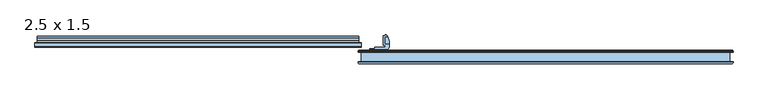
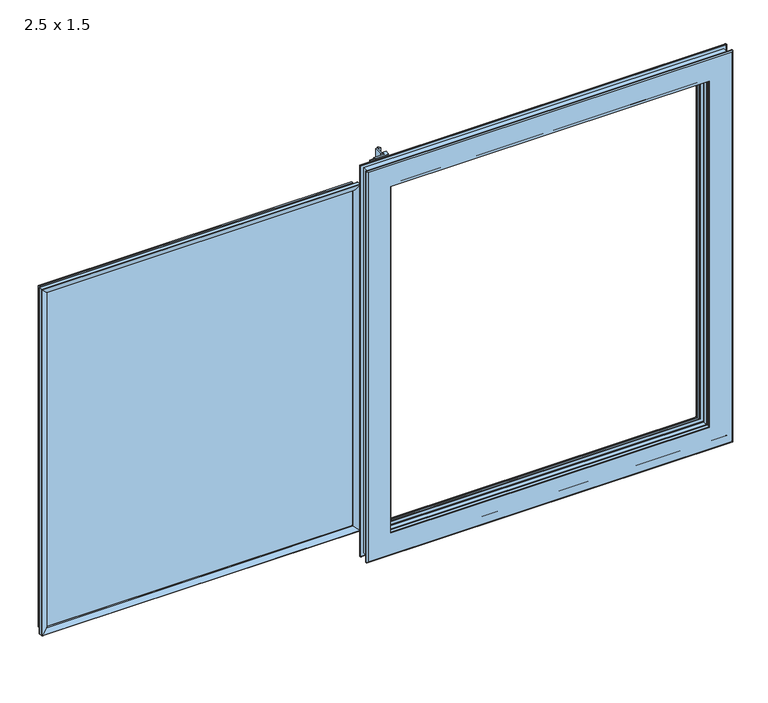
"""IFC4 building model written with IfcOpenShell, lengths in millimetres: window geometry, Windows_Opening-Slide_Strugal_S110P2_One-Leaf-Fixed-Leaf_INT (2) : 2.5 x 1.5."""

from ifc_helpers import new_model, si_unit, frame, origin, place, context, project, spatial, polyline, circle_curve, ellipse_curve, outline, extrude, source, transform, mapped, element, save
from ifc_brep_helpers import plane_surface, cylinder_surface, revolved_surface, advanced_brep


def window_2_5_x_1_5_7a9b2e37(model_context):
    return source(origin(), model_context, "Body", "SolidModel", [
        advanced_brep(
        [(-45.5, -66.5, 1459.0), (-45.5, -66.5, 41.0), (-41.5, -70.5, 45.0), (-41.5, -70.5, 1455.0), (1205.0, -70.5, 45.0), (1205.0, -70.5, 1455.0), (36.0, -70.5, 122.5), (36.0, -70.5, 1377.5), (1127.5, -70.5, 1377.5), (1127.5, -70.5, 122.5), (1209.0, -66.5, 41.0), (-45.5, -64.7086962, 1459.0), (-45.5, -64.7086962, 41.0), (1209.0, -64.7086962, 41.0), (-44.4913038, -63.7, 1457.9913038), (-44.4913038, -63.7, 42.0086962), (1207.9913038, -63.7, 42.0086962), (1207.9913038, -63.7, 1457.9913038), (-34.9, -63.7, 1448.4), (-34.9, -63.7, 51.6), (1198.4, -63.7, 51.6), (1198.4, -63.7, 1448.4), (-34.9, -32.3, 1448.4), (-34.9, -32.3, 51.6), (1198.4, -32.3, 51.6), (-44.5467393, -32.3, 1458.0467393), (-44.5467393, -32.3, 41.9532607), (1208.0467393, -32.3, 41.9532607), (1208.0467393, -32.3, 1458.0467393), (1198.4, -32.3, 1448.4), (-45.5, -31.3467393, 1459.0), (-45.5, -31.3467393, 41.0), (1209.0, -31.3467393, 41.0), (-45.5, -29.5, 1459.0), (-45.5, -29.5, 41.0), (1209.0, -29.5, 41.0), (-41.5, -25.5, 1455.0), (-41.5, -25.5, 45.0), (1205.0, -25.5, 45.0), (1205.0, -25.5, 1455.0), (42.1435933, -25.5, 1371.3564067), (42.1435933, -25.5, 128.6435933), (1121.3564067, -25.5, 128.6435933), (1121.3564067, -25.5, 1371.3564067), (56.5170852, -29.6438688, 1356.9829148), (56.5170852, -29.6438688, 143.0170852), (1106.9829148, -29.6438688, 143.0170852), (56.9999998, -30.5180265, 1356.5000002), (56.9999998, -30.5180265, 143.4999998), (1106.5000002, -30.5180265, 143.4999998), (56.9999998, -33.0, 1356.5), (56.9999998, -33.0, 143.5), (1106.5, -33.0, 143.4999998), (56.0, -34.0, 1357.5), (56.0, -34.0, 142.5), (1107.5, -34.0, 142.5), (50.5, -34.0, 1363.0), (50.5, -34.0, 137.0), (1113.0, -34.0, 137.0), (1113.0, -34.0, 1363.0), (1107.5, -34.0, 1357.5), (49.5, -33.0, 1364.0), (49.5, -33.0, 136.0), (1114.0, -33.0, 136.0), (49.5, -28.0841592, 1364.0), (49.5, -28.0841592, 136.0), (1114.0, -28.0841592, 136.0), (42.1435933, -27.0, 1371.3564067), (42.1435933, -27.0, 128.6435933), (1121.3564067, -27.0, 128.6435933), (31.0, -27.0, 1382.5), (31.0, -27.0, 117.5), (1132.5, -27.0, 117.5), (1132.5, -27.0, 1382.5), (1121.3564067, -27.0, 1371.3564067), (31.0, -37.0, 1382.5), (31.0, -37.0, 117.5), (1132.5, -37.0, 117.5), (1132.5, -37.0, 1382.5), (35.003386, -37.0, 1378.496614), (35.003386, -37.0, 121.503386), (1128.496614, -37.0, 121.503386), (1128.496614, -37.0, 1378.496614), (36.0, -37.996614, 1377.5), (36.0, -37.996614, 122.5), (1127.5, -37.996614, 122.5), (36.0, -53.0, 1377.5), (36.0, -53.0, 122.5), (1127.5, -53.0, 122.5), (34.0, -53.0, 1379.5), (34.0, -53.0, 120.5), (1129.5, -53.0, 120.5), (1129.5, -53.0, 1379.5), (1127.5, -53.0, 1377.5), (34.0, -51.0, 1379.5), (34.0, -51.0, 120.5), (1129.5, -51.0, 120.5), (31.0, -51.0, 1382.5), (31.0, -51.0, 117.5), (1132.5, -51.0, 117.5), (1132.5, -51.0, 1382.5), (1129.5, -51.0, 1379.5), (31.0, -69.0, 1382.5), (31.0, -69.0, 117.5), (1132.5, -69.0, 117.5), (1132.5, -69.0, 1382.5), (34.0, -69.0, 1379.5), (34.0, -69.0, 120.5), (1129.5, -69.0, 120.5), (1129.5, -69.0, 1379.5), (34.0, -67.0, 1379.5), (34.0, -67.0, 120.5), (1129.5, -67.0, 120.5), (36.0, -67.5091854, 1377.5), (36.0, -67.5091854, 122.5), (1127.5, -67.5091854, 122.5), (1209.0, -66.5, 1459.0), (1209.0, -64.7086962, 1459.0), (1209.0, -31.3467393, 1459.0), (1209.0, -29.5, 1459.0), (1106.9829148, -29.6438688, 1356.9829148), (1106.5000002, -30.5180265, 1356.5000002), (1106.5000002, -33.0, 1356.5), (1114.0, -33.0, 1364.0), (1114.0, -28.0841592, 1364.0), (1127.5, -37.996614, 1377.5), (1129.5, -67.0, 1379.5), (1127.5, -67.5091854, 1377.5)],
        [
            (0, 1),
            (1, 2, ellipse_curve(frame((-41.5, -66.5, 45.0), z_axis=(-0.7071067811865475, 0.0, 0.7071067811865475), x_axis=(0.7071067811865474, 0.0, 0.7071067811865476)), 5.6568542, 4.0)),
            (2, 3),
            (3, 0, ellipse_curve(frame((-41.5, -66.5, 1455.0), z_axis=(-0.7071067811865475, 0.0, -0.7071067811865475), x_axis=(-0.7071067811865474, 0.0, 0.7071067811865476)), 5.6568542, 4.0)),
            (2, 4),
            (4, 5),
            (5, 3),
            (6, 7),
            (7, 8),
            (8, 9),
            (9, 6),
            (1, 10),
            (10, 4, ellipse_curve(frame((1205.0, -66.5, 45.0), z_axis=(-0.7071067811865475, 0.0, -0.7071067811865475), x_axis=(-0.7071067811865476, 0.0, 0.7071067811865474)), 5.6568542, 4.0)),
            (11, 12),
            (12, 1),
            (0, 11),
            (12, 13),
            (13, 10),
            (14, 15),
            (15, 12, ellipse_curve(frame((-44.4913038, -64.7086962, 42.0086962), z_axis=(-0.7071067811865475, 0.0, 0.7071067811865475), x_axis=(0.7071067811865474, 0.0, 0.7071067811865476)), 1.4265118, 1.0086962)),
            (11, 14, ellipse_curve(frame((-44.4913038, -64.7086962, 1457.9913038), z_axis=(-0.7071067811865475, 0.0, -0.7071067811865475), x_axis=(-0.7071067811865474, 0.0, 0.7071067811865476)), 1.4265118, 1.0086962)),
            (15, 16),
            (16, 13, ellipse_curve(frame((1207.9913038, -64.7086962, 42.0086962), z_axis=(-0.7071067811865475, 0.0, -0.7071067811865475), x_axis=(-0.7071067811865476, 0.0, 0.7071067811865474)), 1.4265118, 1.0086962)),
            (14, 17),
            (17, 16),
            (18, 19),
            (19, 20),
            (20, 21),
            (21, 18),
            (22, 23),
            (23, 19),
            (18, 22),
            (23, 24),
            (24, 20),
            (25, 26),
            (26, 27),
            (27, 28),
            (28, 25),
            (22, 29),
            (29, 24),
            (30, 31),
            (31, 26, ellipse_curve(frame((-44.5467393, -31.3467393, 41.9532607), z_axis=(-0.7071067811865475, 0.0, 0.7071067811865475), x_axis=(0.7071067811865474, 0.0, 0.7071067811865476)), 1.3481142, 0.9532607)),
            (25, 30, ellipse_curve(frame((-44.5467393, -31.3467393, 1458.0467393), z_axis=(-0.7071067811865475, 0.0, -0.7071067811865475), x_axis=(-0.7071067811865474, 0.0, 0.7071067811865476)), 1.3481142, 0.9532607)),
            (31, 32),
            (32, 27, ellipse_curve(frame((1208.0467393, -31.3467393, 41.9532607), z_axis=(-0.7071067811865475, 0.0, -0.7071067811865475), x_axis=(-0.7071067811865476, 0.0, 0.7071067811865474)), 1.3481142, 0.9532607)),
            (33, 34),
            (34, 31),
            (30, 33),
            (34, 35),
            (35, 32),
            (36, 37),
            (37, 34, ellipse_curve(frame((-41.5, -29.5, 45.0), z_axis=(-0.7071067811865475, 0.0, 0.7071067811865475), x_axis=(0.7071067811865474, 0.0, 0.7071067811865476)), 5.6568542, 4.0)),
            (33, 36, ellipse_curve(frame((-41.5, -29.5, 1455.0), z_axis=(-0.7071067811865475, 0.0, -0.7071067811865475), x_axis=(-0.7071067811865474, 0.0, 0.7071067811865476)), 5.6568542, 4.0)),
            (37, 38),
            (38, 35, ellipse_curve(frame((1205.0, -29.5, 45.0), z_axis=(-0.7071067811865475, 0.0, -0.7071067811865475), x_axis=(-0.7071067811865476, 0.0, 0.7071067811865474)), 5.6568542, 4.0)),
            (36, 39),
            (39, 38),
            (40, 41),
            (41, 42),
            (42, 43),
            (43, 40),
            (44, 45),
            (45, 41, ellipse_curve(frame((42.1435933, -52.5, 128.6435933), z_axis=(-0.7071067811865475, 0.0, 0.7071067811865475), x_axis=(0.7071067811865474, 0.0, 0.7071067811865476)), 38.1837662, 27.0)),
            (40, 44, ellipse_curve(frame((42.1435933, -52.5, 1371.3564067), z_axis=(-0.7071067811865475, 0.0, -0.7071067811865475), x_axis=(-0.7071067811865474, 0.0, 0.7071067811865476)), 38.1837662, 27.0)),
            (45, 46),
            (46, 42, ellipse_curve(frame((1121.3564067, -52.5, 128.6435933), z_axis=(-0.7071067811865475, 0.0, -0.7071067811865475), x_axis=(-0.7071067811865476, 0.0, 0.7071067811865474)), 38.1837662, 27.0)),
            (47, 48),
            (48, 45, ellipse_curve(frame((55.9673553, -30.5180265, 142.4673553), z_axis=(-0.7071067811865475, 0.0, 0.7071067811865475), x_axis=(0.7071067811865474, 0.0, 0.7071067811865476)), 1.4603799, 1.0326445)),
            (44, 47, ellipse_curve(frame((55.9673553, -30.5180265, 1357.5326447), z_axis=(-0.7071067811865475, 0.0, -0.7071067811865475), x_axis=(-0.7071067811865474, 0.0, 0.7071067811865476)), 1.4603799, 1.0326445)),
            (48, 49),
            (49, 46, ellipse_curve(frame((1107.5326447, -30.5180265, 142.4673553), z_axis=(-0.7071067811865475, 0.0, -0.7071067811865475), x_axis=(-0.7071067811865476, 0.0, 0.7071067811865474)), 1.4603799, 1.0326445)),
            (50, 51),
            (51, 48),
            (47, 50),
            (51, 52),
            (52, 49),
            (53, 54),
            (54, 51, ellipse_curve(frame((56.0, -33.0, 142.5), z_axis=(-0.7071067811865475, 0.0, 0.7071067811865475), x_axis=(0.7071067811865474, 0.0, 0.7071067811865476)), 1.4142136, 1.0)),
            (50, 53, ellipse_curve(frame((56.0, -33.0, 1357.5), z_axis=(-0.7071067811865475, 0.0, -0.7071067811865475), x_axis=(-0.7071067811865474, 0.0, 0.7071067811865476)), 1.4142136, 1.0)),
            (54, 55),
            (55, 52, ellipse_curve(frame((1107.5, -33.0, 142.5), z_axis=(-0.7071067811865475, 0.0, -0.7071067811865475), x_axis=(-0.7071067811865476, 0.0, 0.7071067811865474)), 1.4142136, 1.0)),
            (56, 57),
            (57, 58),
            (58, 59),
            (59, 56),
            (53, 60),
            (60, 55),
            (61, 62),
            (62, 57, ellipse_curve(frame((50.5, -33.0, 137.0), z_axis=(-0.7071067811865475, 0.0, 0.7071067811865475), x_axis=(0.7071067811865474, 0.0, 0.7071067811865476)), 1.4142136, 1.0)),
            (56, 61, ellipse_curve(frame((50.5, -33.0, 1363.0), z_axis=(-0.7071067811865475, 0.0, -0.7071067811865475), x_axis=(-0.7071067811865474, 0.0, 0.7071067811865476)), 1.4142136, 1.0)),
            (62, 63),
            (63, 58, ellipse_curve(frame((1113.0, -33.0, 137.0), z_axis=(-0.7071067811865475, 0.0, -0.7071067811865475), x_axis=(-0.7071067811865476, 0.0, 0.7071067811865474)), 1.4142136, 1.0)),
            (64, 65),
            (65, 62),
            (61, 64),
            (65, 66),
            (66, 63),
            (67, 68),
            (68, 65, ellipse_curve(frame((42.1435933, -52.5, 128.6435933), z_axis=(0.7071067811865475, 0.0, -0.7071067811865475), x_axis=(-0.7071067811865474, 0.0, -0.7071067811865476)), 36.0624458, 25.5)),
            (64, 67, ellipse_curve(frame((42.1435933, -52.5, 1371.3564067), z_axis=(0.7071067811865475, 0.0, 0.7071067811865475), x_axis=(0.7071067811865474, 0.0, -0.7071067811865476)), 36.0624458, 25.5)),
            (68, 69),
            (69, 66, ellipse_curve(frame((1121.3564067, -52.5, 128.6435933), z_axis=(0.7071067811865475, 0.0, 0.7071067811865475), x_axis=(0.7071067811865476, 0.0, -0.7071067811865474)), 36.0624458, 25.5)),
            (70, 71),
            (71, 72),
            (72, 73),
            (73, 70),
            (67, 74),
            (74, 69),
            (75, 76),
            (76, 71),
            (70, 75),
            (76, 77),
            (77, 72),
            (75, 78),
            (78, 77),
            (79, 80),
            (80, 81),
            (81, 82),
            (82, 79),
            (83, 84),
            (84, 80, ellipse_curve(frame((35.003386, -37.996614, 121.503386), z_axis=(-0.7071067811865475, 0.0, 0.7071067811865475), x_axis=(0.7071067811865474, 0.0, 0.7071067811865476)), 1.4094251, 0.996614)),
            (79, 83, ellipse_curve(frame((35.003386, -37.996614, 1378.496614), z_axis=(-0.7071067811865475, 0.0, -0.7071067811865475), x_axis=(-0.7071067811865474, 0.0, 0.7071067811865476)), 1.4094251, 0.996614)),
            (84, 85),
            (85, 81, ellipse_curve(frame((1128.496614, -37.996614, 121.503386), z_axis=(-0.7071067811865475, 0.0, -0.7071067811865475), x_axis=(-0.7071067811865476, 0.0, 0.7071067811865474)), 1.4094251, 0.996614)),
            (86, 87),
            (87, 84),
            (83, 86),
            (87, 88),
            (88, 85),
            (89, 90),
            (90, 91),
            (91, 92),
            (92, 89),
            (86, 93),
            (93, 88),
            (94, 95),
            (95, 90),
            (89, 94),
            (95, 96),
            (96, 91),
            (97, 98),
            (98, 99),
            (99, 100),
            (100, 97),
            (94, 101),
            (101, 96),
            (102, 103),
            (103, 98),
            (97, 102),
            (103, 104),
            (104, 99),
            (102, 105),
            (105, 104),
            (106, 107),
            (107, 108),
            (108, 109),
            (109, 106),
            (110, 111),
            (111, 107),
            (106, 110),
            (111, 112),
            (112, 108),
            (113, 114),
            (114, 111),
            (110, 113),
            (114, 115),
            (115, 112),
            (6, 114),
            (113, 7),
            (9, 115),
            (10, 116),
            (116, 5, ellipse_curve(frame((1205.0, -66.5, 1455.0), z_axis=(0.7071067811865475, 0.0, -0.7071067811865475), x_axis=(-0.7071067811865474, 0.0, -0.7071067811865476)), 5.6568542, 4.0)),
            (13, 117),
            (117, 116),
            (17, 117, ellipse_curve(frame((1207.9913038, -64.7086962, 1457.9913038), z_axis=(0.7071067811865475, 0.0, -0.7071067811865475), x_axis=(-0.7071067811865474, 0.0, -0.7071067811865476)), 1.4265118, 1.0086962)),
            (29, 21),
            (32, 118),
            (118, 28, ellipse_curve(frame((1208.0467393, -31.3467393, 1458.0467393), z_axis=(0.7071067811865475, 0.0, -0.7071067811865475), x_axis=(-0.7071067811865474, 0.0, -0.7071067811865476)), 1.3481142, 0.9532607)),
            (35, 119),
            (119, 118),
            (39, 119, ellipse_curve(frame((1205.0, -29.5, 1455.0), z_axis=(0.7071067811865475, 0.0, -0.7071067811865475), x_axis=(-0.7071067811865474, 0.0, -0.7071067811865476)), 5.6568542, 4.0)),
            (46, 120),
            (120, 43, ellipse_curve(frame((1121.3564067, -52.5, 1371.3564067), z_axis=(0.7071067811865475, 0.0, -0.7071067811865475), x_axis=(-0.7071067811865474, 0.0, -0.7071067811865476)), 38.1837662, 27.0)),
            (49, 121),
            (121, 120, ellipse_curve(frame((1107.5326447, -30.5180265, 1357.5326447), z_axis=(0.7071067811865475, 0.0, -0.7071067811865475), x_axis=(-0.7071067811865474, 0.0, -0.7071067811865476)), 1.4603799, 1.0326445)),
            (52, 122),
            (122, 121),
            (60, 122, ellipse_curve(frame((1107.5, -33.0, 1357.5), z_axis=(0.7071067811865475, 0.0, -0.7071067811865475), x_axis=(-0.7071067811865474, 0.0, -0.7071067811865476)), 1.4142136, 1.0)),
            (63, 123),
            (123, 59, ellipse_curve(frame((1113.0, -33.0, 1363.0), z_axis=(0.7071067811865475, 0.0, -0.7071067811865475), x_axis=(-0.7071067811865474, 0.0, -0.7071067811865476)), 1.4142136, 1.0)),
            (66, 124),
            (124, 123),
            (74, 124, ellipse_curve(frame((1121.3564067, -52.5, 1371.3564067), z_axis=(-0.7071067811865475, 0.0, 0.7071067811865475), x_axis=(0.7071067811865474, 0.0, 0.7071067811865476)), 36.0624458, 25.5)),
            (78, 73),
            (85, 125),
            (125, 82, ellipse_curve(frame((1128.496614, -37.996614, 1378.496614), z_axis=(0.7071067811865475, 0.0, -0.7071067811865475), x_axis=(-0.7071067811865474, 0.0, -0.7071067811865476)), 1.4094251, 0.996614)),
            (93, 125),
            (101, 92),
            (105, 100),
            (112, 126),
            (126, 109),
            (115, 127),
            (127, 126),
            (8, 127),
            (116, 0),
            (117, 11),
            (118, 30),
            (119, 33),
            (120, 44),
            (121, 47),
            (122, 50),
            (123, 61),
            (124, 64),
            (125, 83),
            (126, 110),
            (127, 113),
        ],
        [
            cylinder_surface(frame((-41.5, -66.5, 1459.0), z_axis=(0.0, 0.0, 1.0), x_axis=(1.0, 0.0, 0.0)), 4.0),
            plane_surface(frame((1127.5, -70.5, 1377.5), z_axis=(0.0, -1.0, 0.0), x_axis=(-1.0, 0.0, 0.0))),
            cylinder_surface(frame((-45.5, -66.5, 45.0), z_axis=(-1.0, 0.0, 0.0), x_axis=(0.0, 0.0, 1.0)), 4.0),
            plane_surface(frame((-45.5, -66.5, 1459.0), z_axis=(-1.0, 0.0, 0.0), x_axis=(0.0, 0.0, -1.0))),
            plane_surface(frame((-45.5, -66.5, 41.0), z_axis=(0.0, 0.0, -1.0), x_axis=(1.0, 0.0, 0.0))),
            cylinder_surface(frame((-44.4913038, -64.7086962, 1459.0), z_axis=(0.0, 0.0, 1.0), x_axis=(1.0, 0.0, 0.0)), 1.0086962),
            cylinder_surface(frame((-45.5, -64.7086962, 42.0086962), z_axis=(-1.0, 0.0, 0.0), x_axis=(0.0, 0.0, 1.0)), 1.0086962),
            plane_surface(frame((1207.9913038, -63.7, 1457.9913038), z_axis=(0.0, 1.0, 0.0), x_axis=(-1.0, 0.0, 0.0))),
            plane_surface(frame((-34.9, -63.7, 1448.4), z_axis=(-1.0, 0.0, 0.0), x_axis=(0.0, 0.0, -1.0))),
            plane_surface(frame((-34.9, -63.7, 51.6), z_axis=(0.0, 0.0, -1.0), x_axis=(1.0, 0.0, 0.0))),
            plane_surface(frame((1198.4, -32.3, 1448.4), z_axis=(0.0, -1.0, 0.0), x_axis=(-1.0, 0.0, 0.0))),
            cylinder_surface(frame((-44.5467393, -31.3467393, 1459.0), z_axis=(0.0, 0.0, 1.0), x_axis=(1.0, 0.0, 0.0)), 0.9532607),
            cylinder_surface(frame((-45.5, -31.3467393, 41.9532607), z_axis=(-1.0, 0.0, 0.0), x_axis=(0.0, 0.0, 1.0)), 0.9532607),
            plane_surface(frame((-45.5, -31.3467393, 1459.0), z_axis=(-1.0, 0.0, 0.0), x_axis=(0.0, 0.0, -1.0))),
            plane_surface(frame((-45.5, -31.3467393, 41.0), z_axis=(0.0, 0.0, -1.0), x_axis=(1.0, 0.0, 0.0))),
            cylinder_surface(frame((-41.5, -29.5, 1459.0), z_axis=(0.0, 0.0, 1.0), x_axis=(1.0, 0.0, 0.0)), 4.0),
            cylinder_surface(frame((-45.5, -29.5, 45.0), z_axis=(-1.0, 0.0, 0.0), x_axis=(0.0, 0.0, 1.0)), 4.0),
            plane_surface(frame((1205.0, -25.5, 1455.0), z_axis=(0.0, 1.0, 0.0), x_axis=(-1.0, 0.0, 0.0))),
            cylinder_surface(frame((42.1435933, -52.5, 1459.0), z_axis=(0.0, 0.0, 1.0), x_axis=(1.0, 0.0, 0.0)), 27.0),
            cylinder_surface(frame((-45.5, -52.5, 128.6435933), z_axis=(-1.0, 0.0, 0.0), x_axis=(0.0, 0.0, 1.0)), 27.0),
            cylinder_surface(frame((55.9673553, -30.5180265, 1459.0), z_axis=(0.0, 0.0, 1.0), x_axis=(1.0, 0.0, 0.0)), 1.0326445),
            cylinder_surface(frame((-45.5, -30.5180265, 142.4673553), z_axis=(-1.0, 0.0, 0.0), x_axis=(0.0, 0.0, 1.0)), 1.0326445),
            plane_surface(frame((56.9999998, -30.5180265, 1356.5000002), z_axis=(1.0, 0.0, 0.0), x_axis=(0.0, 0.0, -1.0))),
            plane_surface(frame((56.9999998, -30.5180265, 143.4999998), z_axis=(0.0, 0.0, 1.0), x_axis=(1.0, 0.0, 0.0))),
            cylinder_surface(frame((56.0, -33.0, 1459.0), z_axis=(0.0, 0.0, 1.0), x_axis=(1.0, 0.0, 0.0)), 1.0),
            cylinder_surface(frame((-45.5, -33.0, 142.5), z_axis=(-1.0, 0.0, 0.0), x_axis=(0.0, 0.0, 1.0)), 1.0),
            plane_surface(frame((1107.5, -34.0, 1357.5), z_axis=(0.0, -1.0, 0.0), x_axis=(-1.0, 0.0, 0.0))),
            cylinder_surface(frame((50.5, -33.0, 1459.0), z_axis=(0.0, 0.0, 1.0), x_axis=(1.0, 0.0, 0.0)), 1.0),
            cylinder_surface(frame((-45.5, -33.0, 137.0), z_axis=(-1.0, 0.0, 0.0), x_axis=(0.0, 0.0, 1.0)), 1.0),
            plane_surface(frame((49.5, -33.0, 1364.0), z_axis=(-1.0, 0.0, 0.0), x_axis=(0.0, 0.0, -1.0))),
            plane_surface(frame((49.5, -33.0, 136.0), z_axis=(0.0, 0.0, -1.0), x_axis=(1.0, 0.0, 0.0))),
            revolved_surface(polyline([(67.64359329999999, -52.5, 103.14359332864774), (67.64359329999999, -52.5, 1396.8564066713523)]), (42.1435933, -52.5, 1459.0), (0.0, 0.0, -1.0)),
            revolved_surface(polyline([(1146.8564066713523, -52.5, 154.1435933), (16.64359332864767, -52.5, 154.1435933)]), (-45.5, -52.5, 128.6435933), (1.0, 0.0, 0.0)),
            plane_surface(frame((1121.3564067, -27.0, 1371.3564067), z_axis=(0.0, -1.0, 0.0), x_axis=(-1.0, 0.0, 0.0))),
            plane_surface(frame((31.0, -27.0, 1382.5), z_axis=(1.0, 0.0, 0.0), x_axis=(0.0, 0.0, -1.0))),
            plane_surface(frame((31.0, -27.0, 117.5), z_axis=(0.0, 0.0, 1.0), x_axis=(1.0, 0.0, 0.0))),
            plane_surface(frame((1132.5, -37.0, 1382.5), z_axis=(0.0, 1.0, 0.0), x_axis=(-1.0, 0.0, 0.0))),
            cylinder_surface(frame((35.003386, -37.996614, 1459.0), z_axis=(0.0, 0.0, 1.0), x_axis=(1.0, 0.0, 0.0)), 0.996614),
            cylinder_surface(frame((-45.5, -37.996614, 121.503386), z_axis=(-1.0, 0.0, 0.0), x_axis=(0.0, 0.0, 1.0)), 0.996614),
            plane_surface(frame((36.0, -37.996614, 1377.5), z_axis=(1.0, 0.0, 0.0), x_axis=(0.0, 0.0, -1.0))),
            plane_surface(frame((36.0, -37.996614, 122.5), z_axis=(0.0, 0.0, 1.0), x_axis=(1.0, 0.0, 0.0))),
            plane_surface(frame((1127.5, -53.0, 1377.5), z_axis=(0.0, -1.0, 0.0), x_axis=(-1.0, 0.0, 0.0))),
            plane_surface(frame((34.0, -53.0, 1379.5), z_axis=(-1.0, 0.0, 0.0), x_axis=(0.0, 0.0, -1.0))),
            plane_surface(frame((34.0, -53.0, 120.5), z_axis=(0.0, 0.0, -1.0), x_axis=(1.0, 0.0, 0.0))),
            plane_surface(frame((1129.5, -51.0, 1379.5), z_axis=(0.0, -1.0, 0.0), x_axis=(-1.0, 0.0, 0.0))),
            plane_surface(frame((31.0, -51.0, 1382.5), z_axis=(1.0, 0.0, 0.0), x_axis=(0.0, 0.0, -1.0))),
            plane_surface(frame((31.0, -51.0, 117.5), z_axis=(0.0, 0.0, 1.0), x_axis=(1.0, 0.0, 0.0))),
            plane_surface(frame((1132.5, -69.0, 1382.5), z_axis=(0.0, 1.0, 0.0), x_axis=(-1.0, 0.0, 0.0))),
            plane_surface(frame((34.0, -69.0, 1379.5), z_axis=(-1.0, 0.0, 0.0), x_axis=(0.0, 0.0, -1.0))),
            plane_surface(frame((34.0, -69.0, 120.5), z_axis=(0.0, 0.0, -1.0), x_axis=(1.0, 0.0, 0.0))),
            plane_surface(frame((34.0, -67.0, 1379.5), z_axis=(0.24672227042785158, 0.9690862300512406, 0.0), x_axis=(0.0, 0.0, -1.0))),
            plane_surface(frame((34.0, -67.0, 120.5), z_axis=(0.0, 0.9690862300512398, 0.24672227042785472), x_axis=(1.0, 0.0, 0.0))),
            plane_surface(frame((36.0, -67.5091854, 1377.5), z_axis=(1.0, 0.0, 0.0), x_axis=(0.0, 0.0, -1.0))),
            plane_surface(frame((36.0, -67.5091854, 122.5), z_axis=(0.0, 0.0, 1.0), x_axis=(1.0, 0.0, 0.0))),
            cylinder_surface(frame((1205.0, -66.5, 41.0), z_axis=(0.0, 0.0, -1.0), x_axis=(-1.0, 0.0, 0.0)), 4.0),
            plane_surface(frame((1209.0, -66.5, 41.0), z_axis=(1.0, 0.0, 0.0), x_axis=(0.0, 0.0, 1.0))),
            cylinder_surface(frame((1207.9913038, -64.7086962, 41.0), z_axis=(0.0, 0.0, -1.0), x_axis=(-1.0, 0.0, 0.0)), 1.0086962),
            plane_surface(frame((1198.4, -63.7, 51.6), z_axis=(1.0, 0.0, 0.0), x_axis=(0.0, 0.0, 1.0))),
            cylinder_surface(frame((1208.0467393, -31.3467393, 41.0), z_axis=(0.0, 0.0, -1.0), x_axis=(-1.0, 0.0, 0.0)), 0.9532607),
            plane_surface(frame((1209.0, -31.3467393, 41.0), z_axis=(1.0, 0.0, 0.0), x_axis=(0.0, 0.0, 1.0))),
            cylinder_surface(frame((1205.0, -29.5, 41.0), z_axis=(0.0, 0.0, -1.0), x_axis=(-1.0, 0.0, 0.0)), 4.0),
            cylinder_surface(frame((1121.3564067, -52.5, 41.0), z_axis=(0.0, 0.0, -1.0), x_axis=(-1.0, 0.0, 0.0)), 27.0),
            cylinder_surface(frame((1107.5326447, -30.5180265, 41.0), z_axis=(0.0, 0.0, -1.0), x_axis=(-1.0, 0.0, 0.0)), 1.0326445),
            plane_surface(frame((1106.5000002, -30.5180265, 143.4999998), z_axis=(-1.0, 0.0, 0.0), x_axis=(0.0, 0.0, 1.0))),
            cylinder_surface(frame((1107.5, -33.0, 41.0), z_axis=(0.0, 0.0, -1.0), x_axis=(-1.0, 0.0, 0.0)), 1.0),
            cylinder_surface(frame((1113.0, -33.0, 41.0), z_axis=(0.0, 0.0, -1.0), x_axis=(-1.0, 0.0, 0.0)), 1.0),
            plane_surface(frame((1114.0, -33.0, 136.0), z_axis=(1.0, 0.0, 0.0), x_axis=(0.0, 0.0, 1.0))),
            revolved_surface(polyline([(1095.8564067, -52.5, 1396.8564066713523), (1095.8564067, -52.5, 103.14359332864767)]), (1121.3564067, -52.5, 41.0), (0.0, 0.0, 1.0)),
            plane_surface(frame((1132.5, -27.0, 117.5), z_axis=(-1.0, 0.0, 0.0), x_axis=(0.0, 0.0, 1.0))),
            cylinder_surface(frame((1128.496614, -37.996614, 41.0), z_axis=(0.0, 0.0, -1.0), x_axis=(-1.0, 0.0, 0.0)), 0.996614),
            plane_surface(frame((1127.5, -37.996614, 122.5), z_axis=(-1.0, 0.0, 0.0), x_axis=(0.0, 0.0, 1.0))),
            plane_surface(frame((1129.5, -53.0, 120.5), z_axis=(1.0, 0.0, 0.0), x_axis=(0.0, 0.0, 1.0))),
            plane_surface(frame((1132.5, -51.0, 117.5), z_axis=(-1.0, 0.0, 0.0), x_axis=(0.0, 0.0, 1.0))),
            plane_surface(frame((1129.5, -69.0, 120.5), z_axis=(1.0, 0.0, 0.0), x_axis=(0.0, 0.0, 1.0))),
            plane_surface(frame((1129.5, -67.0, 120.5), z_axis=(-0.24672227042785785, 0.9690862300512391, 0.0), x_axis=(0.0, 0.0, 1.0))),
            plane_surface(frame((1127.5, -67.5091854, 122.5), z_axis=(-1.0, 0.0, 0.0), x_axis=(0.0, 0.0, 1.0))),
            cylinder_surface(frame((1209.0, -66.5, 1455.0), z_axis=(1.0, 0.0, 0.0), x_axis=(0.0, 0.0, -1.0)), 4.0),
            plane_surface(frame((1209.0, -66.5, 1459.0), z_axis=(0.0, 0.0, 1.0), x_axis=(-1.0, 0.0, 0.0))),
            cylinder_surface(frame((1209.0, -64.7086962, 1457.9913038), z_axis=(1.0, 0.0, 0.0), x_axis=(0.0, 0.0, -1.0)), 1.0086962),
            plane_surface(frame((1198.4, -63.7, 1448.4), z_axis=(0.0, 0.0, 1.0), x_axis=(-1.0, 0.0, 0.0))),
            cylinder_surface(frame((1209.0, -31.3467393, 1458.0467393), z_axis=(1.0, 0.0, 0.0), x_axis=(0.0, 0.0, -1.0)), 0.9532607),
            plane_surface(frame((1209.0, -31.3467393, 1459.0), z_axis=(0.0, 0.0, 1.0), x_axis=(-1.0, 0.0, 0.0))),
            cylinder_surface(frame((1209.0, -29.5, 1455.0), z_axis=(1.0, 0.0, 0.0), x_axis=(0.0, 0.0, -1.0)), 4.0),
            cylinder_surface(frame((1209.0, -52.5, 1371.3564067), z_axis=(1.0, 0.0, 0.0), x_axis=(0.0, 0.0, -1.0)), 27.0),
            cylinder_surface(frame((1209.0, -30.5180265, 1357.5326447), z_axis=(1.0, 0.0, 0.0), x_axis=(0.0, 0.0, -1.0)), 1.0326445),
            plane_surface(frame((1106.5000002, -30.5180265, 1356.5000002), z_axis=(0.0, 0.0, -1.0), x_axis=(-1.0, 0.0, 0.0))),
            cylinder_surface(frame((1209.0, -33.0, 1357.5), z_axis=(1.0, 0.0, 0.0), x_axis=(0.0, 0.0, -1.0)), 1.0),
            cylinder_surface(frame((1209.0, -33.0, 1363.0), z_axis=(1.0, 0.0, 0.0), x_axis=(0.0, 0.0, -1.0)), 1.0),
            plane_surface(frame((1114.0, -33.0, 1364.0), z_axis=(0.0, 0.0, 1.0), x_axis=(-1.0, 0.0, 0.0))),
            revolved_surface(polyline([(16.64359332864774, -52.5, 1345.8564067), (1146.8564066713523, -52.5, 1345.8564067)]), (1209.0, -52.5, 1371.3564067), (-1.0, 0.0, 0.0)),
            plane_surface(frame((1132.5, -27.0, 1382.5), z_axis=(0.0, 0.0, -1.0), x_axis=(-1.0, 0.0, 0.0))),
            cylinder_surface(frame((1209.0, -37.996614, 1378.496614), z_axis=(1.0, 0.0, 0.0), x_axis=(0.0, 0.0, -1.0)), 0.996614),
            plane_surface(frame((1127.5, -37.996614, 1377.5), z_axis=(0.0, 0.0, -1.0), x_axis=(-1.0, 0.0, 0.0))),
            plane_surface(frame((1129.5, -53.0, 1379.5), z_axis=(0.0, 0.0, 1.0), x_axis=(-1.0, 0.0, 0.0))),
            plane_surface(frame((1132.5, -51.0, 1382.5), z_axis=(0.0, 0.0, -1.0), x_axis=(-1.0, 0.0, 0.0))),
            plane_surface(frame((1129.5, -69.0, 1379.5), z_axis=(0.0, 0.0, 1.0), x_axis=(-1.0, 0.0, 0.0))),
            plane_surface(frame((1129.5, -67.0, 1379.5), z_axis=(0.0, 0.9690862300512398, -0.24672227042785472), x_axis=(-1.0, 0.0, 0.0))),
            plane_surface(frame((1127.5, -67.5091854, 1377.5), z_axis=(0.0, 0.0, -1.0), x_axis=(-1.0, 0.0, 0.0))),
        ],
        [
            (0, [[1, 2, 3, 4]]),
            (1, [[-3, 5, 6, 7], [8, 9, 10, 11]]),
            (2, [[12, 13, -5, -2]]),
            (3, [[14, 15, -1, 16]]),
            (4, [[17, 18, -12, -15]]),
            (5, [[19, 20, -14, 21]]),
            (6, [[22, 23, -17, -20]]),
            (7, [[-19, 24, 25, -22], [26, 27, 28, 29]]),
            (8, [[30, 31, -26, 32]]),
            (9, [[33, 34, -27, -31]]),
            (10, [[35, 36, 37, 38], [-30, 39, 40, -33]]),
            (11, [[41, 42, -35, 43]]),
            (12, [[44, 45, -36, -42]]),
            (13, [[46, 47, -41, 48]]),
            (14, [[49, 50, -44, -47]]),
            (15, [[51, 52, -46, 53]]),
            (16, [[54, 55, -49, -52]]),
            (17, [[-51, 56, 57, -54], [58, 59, 60, 61]]),
            (18, [[62, 63, -58, 64]]),
            (19, [[65, 66, -59, -63]]),
            (20, [[67, 68, -62, 69]]),
            (21, [[70, 71, -65, -68]]),
            (22, [[72, 73, -67, 74]]),
            (23, [[75, 76, -70, -73]]),
            (24, [[77, 78, -72, 79]]),
            (25, [[80, 81, -75, -78]]),
            (26, [[82, 83, 84, 85], [-77, 86, 87, -80]]),
            (27, [[88, 89, -82, 90]]),
            (28, [[91, 92, -83, -89]]),
            (29, [[93, 94, -88, 95]]),
            (30, [[96, 97, -91, -94]]),
            (31, [[98, 99, -93, 100]]),
            (32, [[101, 102, -96, -99]]),
            (33, [[103, 104, 105, 106], [-98, 107, 108, -101]]),
            (34, [[109, 110, -103, 111]]),
            (35, [[112, 113, -104, -110]]),
            (36, [[-109, 114, 115, -112], [116, 117, 118, 119]]),
            (37, [[120, 121, -116, 122]]),
            (38, [[123, 124, -117, -121]]),
            (39, [[125, 126, -120, 127]]),
            (40, [[128, 129, -123, -126]]),
            (41, [[130, 131, 132, 133], [-125, 134, 135, -128]]),
            (42, [[136, 137, -130, 138]]),
            (43, [[139, 140, -131, -137]]),
            (44, [[141, 142, 143, 144], [-136, 145, 146, -139]]),
            (45, [[147, 148, -141, 149]]),
            (46, [[150, 151, -142, -148]]),
            (47, [[-147, 152, 153, -150], [154, 155, 156, 157]]),
            (48, [[158, 159, -154, 160]]),
            (49, [[161, 162, -155, -159]]),
            (50, [[163, 164, -158, 165]]),
            (51, [[166, 167, -161, -164]]),
            (52, [[-8, 168, -163, 169]]),
            (53, [[-11, 170, -166, -168]]),
            (54, [[171, 172, -6, -13]]),
            (55, [[173, 174, -171, -18]]),
            (56, [[-25, 175, -173, -23]]),
            (57, [[-40, 176, -28, -34]]),
            (58, [[177, 178, -37, -45]]),
            (59, [[179, 180, -177, -50]]),
            (60, [[-57, 181, -179, -55]]),
            (61, [[182, 183, -60, -66]]),
            (62, [[184, 185, -182, -71]]),
            (63, [[186, 187, -184, -76]]),
            (64, [[-87, 188, -186, -81]]),
            (65, [[189, 190, -84, -92]]),
            (66, [[191, 192, -189, -97]]),
            (67, [[-108, 193, -191, -102]]),
            (68, [[-115, 194, -105, -113]]),
            (69, [[195, 196, -118, -124]]),
            (70, [[-135, 197, -195, -129]]),
            (71, [[-146, 198, -132, -140]]),
            (72, [[-153, 199, -143, -151]]),
            (73, [[200, 201, -156, -162]]),
            (74, [[202, 203, -200, -167]]),
            (75, [[-10, 204, -202, -170]]),
            (76, [[205, -4, -7, -172]]),
            (77, [[206, -16, -205, -174]]),
            (78, [[-24, -21, -206, -175]]),
            (79, [[-39, -32, -29, -176]]),
            (80, [[207, -43, -38, -178]]),
            (81, [[208, -48, -207, -180]]),
            (82, [[-56, -53, -208, -181]]),
            (83, [[209, -64, -61, -183]]),
            (84, [[210, -69, -209, -185]]),
            (85, [[211, -74, -210, -187]]),
            (86, [[-86, -79, -211, -188]]),
            (87, [[212, -90, -85, -190]]),
            (88, [[213, -95, -212, -192]]),
            (89, [[-107, -100, -213, -193]]),
            (90, [[-114, -111, -106, -194]]),
            (91, [[214, -122, -119, -196]]),
            (92, [[-134, -127, -214, -197]]),
            (93, [[-145, -138, -133, -198]]),
            (94, [[-152, -149, -144, -199]]),
            (95, [[215, -160, -157, -201]]),
            (96, [[216, -165, -215, -203]]),
            (97, [[-9, -169, -216, -204]]),
        ],
    ),
        extrude(outline(polyline([(-44.5, 20.5), (-44.5, 15.5), (-1119.0, 15.5), (-1119.0, 20.5), (-44.5, 20.5)])), frame((0.0, 0.0, 131.0), z_axis=(0.0, 0.0, 1.0), x_axis=(1.0, 0.0, 0.0)), (0.0, 0.0, 1.0), 1238.0),
        extrude(outline(polyline([(-1119.0, 5.5), (-44.5, 5.5), (-44.5, 0.5), (-1119.0, 0.5), (-1119.0, 5.5)])), frame((0.0, 0.0, 131.0), z_axis=(0.0, 0.0, 1.0), x_axis=(1.0, 0.0, 0.0)), (0.0, 0.0, 1.0), 1238.0),
        advanced_brep(
        [(45.5, -15.4999997, 41.0), (45.5, -8.5, 41.0), (37.8000003, -8.5, 41.0), (37.8000003, 22.7, 41.0), (45.5, 22.7, 41.0), (45.5, 25.5000001, 41.0), (46.6121537, 25.5000001, 41.0), (48.626173, 24.7234492, 41.0), (53.0904196, 19.5, 41.0), (43.0236418, 19.5, 41.0), (43.0236418, -5.5, 41.0), (57.4999996, -5.5, 41.0), (57.4999996, -15.778832, 41.0), (51.4788318, -21.7999997, 41.0), (11.7456831, -21.7999997, 41.0), (11.7456831, -22.8999995, 41.0), (-7.6997431, -22.8999995, 41.0), (-7.6997431, -20.860684, 41.0), (10.3, -20.4949362, 41.0), (10.3, -15.4999997, 41.0), (45.5, -15.4999997, 1459.0), (45.5, -8.5, 1459.0), (37.8000003, -8.5, 1459.0), (37.8000003, 22.7, 1459.0), (45.5, 22.7, 1459.0), (45.5, 25.5000001, 1459.0), (46.6121537, 25.5000001, 1459.0), (48.626173, 24.7234492, 1459.0), (53.0904196, 19.5, 1459.0), (53.0904196, 19.5, 1442.0), (57.4999996, 4.7124064, 1442.0), (57.4999996, 4.7124064, 58.0), (53.0904196, 19.5, 58.0), (57.4999996, -15.778832, 1459.0), (57.4999996, -5.5, 58.0), (57.4999996, -5.5, 1442.0), (57.4999996, -5.5, 1459.0), (51.4788318, -21.7999997, 1459.0), (11.7456831, -21.7999997, 1459.0), (11.7456831, -22.8999995, 1459.0), (-7.6997431, -22.8999995, 1459.0), (-7.6997431, -20.860684, 1459.0), (10.3, -20.4949362, 1459.0), (10.3, -15.4999997, 1459.0), (43.0236418, -5.5, 1459.0), (43.0236418, 19.5, 1459.0), (43.0236418, 19.5, 58.0), (43.0236418, -5.5, 58.0), (43.0236418, -5.5, 1442.0), (43.0236418, 19.5, 1442.0)],
        [
            (0, 1),
            (1, 2),
            (2, 3),
            (3, 4),
            (4, 5),
            (5, 6),
            (6, 7, circle_curve(frame((46.6121537, 22.5, 41.0), z_axis=(0.0, 0.0, -1.0), x_axis=(0.0, 1.0, 0.0)), 3.0)),
            (7, 8, circle_curve(frame((30.4999996, 4.7124064, 41.0), z_axis=(0.0, 0.0, -1.0), x_axis=(0.0, 1.0, 0.0)), 27.0)),
            (8, 9),
            (9, 10),
            (10, 11),
            (11, 12),
            (12, 13, circle_curve(frame((51.4788318, -15.778832, 41.0), z_axis=(0.0, 0.0, -1.0), x_axis=(0.0, 1.0, 0.0)), 6.0211677)),
            (13, 14),
            (14, 15),
            (15, 16),
            (16, 17),
            (17, 18),
            (18, 19),
            (19, 0),
            (20, 21),
            (21, 1),
            (0, 20),
            (21, 22),
            (22, 2),
            (22, 23),
            (23, 3),
            (23, 24),
            (24, 4),
            (24, 25),
            (25, 5),
            (25, 26),
            (26, 6),
            (26, 27, circle_curve(frame((46.6121537, 22.5, 1459.0), z_axis=(0.0, 0.0, -1.0), x_axis=(0.0, 1.0, 0.0)), 3.0)),
            (27, 7),
            (27, 28, circle_curve(frame((30.4999996, 4.7124064, 1459.0), z_axis=(0.0, 0.0, -1.0), x_axis=(0.0, 1.0, 0.0)), 27.0)),
            (28, 29),
            (29, 30, circle_curve(frame((30.4999996, 4.7124064, 1442.0), z_axis=(0.0, 0.0, -1.0), x_axis=(0.0, 1.0, 0.0)), 27.0)),
            (30, 31),
            (31, 32, circle_curve(frame((30.4999996, 4.7124064, 58.0), z_axis=(0.0, 0.0, 1.0), x_axis=(0.0, 1.0, 0.0)), 27.0)),
            (32, 8),
            (33, 12),
            (11, 34),
            (34, 31),
            (30, 35),
            (35, 36),
            (36, 33),
            (33, 37, circle_curve(frame((51.4788318, -15.778832, 1459.0), z_axis=(0.0, 0.0, -1.0), x_axis=(0.0, 1.0, 0.0)), 6.0211677)),
            (37, 13),
            (37, 38),
            (38, 14),
            (38, 39),
            (39, 15),
            (39, 40),
            (40, 16),
            (40, 41),
            (41, 17),
            (41, 42),
            (42, 18),
            (42, 43),
            (43, 19),
            (43, 20),
            (36, 44),
            (44, 45),
            (45, 28),
            (46, 9),
            (32, 46),
            (46, 47),
            (47, 10),
            (47, 34),
            (44, 48),
            (48, 49),
            (49, 45),
            (35, 48),
            (29, 49),
        ],
        [
            plane_surface(frame((45.5, -15.5, 41.0), z_axis=(0.0, 0.0, -1.0), x_axis=(0.0, 1.0, 0.0))),
            plane_surface(frame((45.5, -8.5, 1459.0), z_axis=(-1.0, 0.0, 0.0), x_axis=(0.0, 0.0, -1.0))),
            plane_surface(frame((37.8000003, -8.5, 1459.0), z_axis=(0.0, -1.0, 0.0), x_axis=(0.0, 0.0, -1.0))),
            plane_surface(frame((37.8000003, 22.7, 1459.0), z_axis=(-1.0, 0.0, 0.0), x_axis=(0.0, 0.0, -1.0))),
            plane_surface(frame((45.5, 22.7, 1459.0), z_axis=(0.0, 1.0, 0.0), x_axis=(0.0, 0.0, -1.0))),
            plane_surface(frame((45.5, 25.5000001, 1459.0), z_axis=(-1.0, 0.0, 0.0), x_axis=(0.0, 0.0, -1.0))),
            plane_surface(frame((46.6121537, 25.5000001, 1459.0), z_axis=(0.0, 1.0, 0.0), x_axis=(0.0, 0.0, -1.0))),
            cylinder_surface(frame((46.6121537, 22.5, 1459.0), z_axis=(0.0, 0.0, 1.0), x_axis=(0.0, 1.0, 0.0)), 3.0),
            cylinder_surface(frame((30.4999996, 4.7124064, 1459.0), z_axis=(0.0, 0.0, 1.0), x_axis=(0.0, 1.0, 0.0)), 27.0),
            plane_surface(frame((57.4999996, -15.778832, 1459.0), z_axis=(1.0, 0.0, 0.0), x_axis=(0.0, 0.0, -1.0))),
            cylinder_surface(frame((51.4788318, -15.778832, 1459.0), z_axis=(0.0, 0.0, 1.0), x_axis=(0.0, 1.0, 0.0)), 6.0211677),
            plane_surface(frame((11.7456831, -21.7999997, 1459.0), z_axis=(0.0, -1.0, 0.0), x_axis=(0.0, 0.0, -1.0))),
            plane_surface(frame((11.7456831, -22.8999995, 1459.0), z_axis=(1.0, 0.0, 0.0), x_axis=(0.0, 0.0, -1.0))),
            plane_surface(frame((-7.6997431, -22.8999995, 1459.0), z_axis=(0.0, -1.0, 0.0), x_axis=(0.0, 0.0, -1.0))),
            plane_surface(frame((-7.6997431, -20.860684, 1459.0), z_axis=(-1.0, 0.0, 0.0), x_axis=(0.0, 0.0, -1.0))),
            plane_surface(frame((10.3, -20.4949362, 1459.0), z_axis=(-0.020315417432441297, 0.9997936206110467, 0.0), x_axis=(0.0, 0.0, -1.0))),
            plane_surface(frame((10.3, -15.4999997, 1459.0), z_axis=(-1.0, 0.0, 0.0), x_axis=(0.0, 0.0, -1.0))),
            plane_surface(frame((45.5, -15.4999997, 1459.0), z_axis=(0.0, 1.0, 0.0), x_axis=(0.0, 0.0, -1.0))),
            plane_surface(frame((45.5, -15.5, 1459.0), z_axis=(0.0, 0.0, 1.0), x_axis=(0.0, 1.0, 0.0))),
            plane_surface(frame((68.5455634, 19.5, 41.0), z_axis=(0.0, -1.0, 0.0), x_axis=(-1.0, 0.0, 0.0))),
            plane_surface(frame((43.0236418, 19.5, 41.0), z_axis=(1.0, 0.0, 0.0), x_axis=(0.0, -1.0, 0.0))),
            plane_surface(frame((68.5455634, -5.5, 58.0), z_axis=(0.0, 1.0, 0.0), x_axis=(-1.0, 0.0, 0.0))),
            plane_surface(frame((68.5455634, 19.5, 58.0), z_axis=(0.0, 0.0, -1.0), x_axis=(-1.0, 0.0, 0.0))),
            plane_surface(frame((43.0236418, -5.5, 1459.0), z_axis=(1.0, 0.0, 0.0), x_axis=(0.0, 0.0, 1.0))),
            plane_surface(frame((68.5455634, -5.5, 1459.0), z_axis=(0.0, 1.0, 0.0), x_axis=(-1.0, 0.0, 0.0))),
            plane_surface(frame((68.5455634, -5.5, 1442.0), z_axis=(0.0, 0.0, 1.0), x_axis=(-1.0, 0.0, 0.0))),
            plane_surface(frame((68.5455634, 19.5, 1442.0), z_axis=(0.0, -1.0, 0.0), x_axis=(-1.0, 0.0, 0.0))),
        ],
        [
            (0, [[1, 2, 3, 4, 5, 6, 7, 8, 9, 10, 11, 12, 13, 14, 15, 16, 17, 18, 19, 20]]),
            (1, [[21, 22, -1, 23]]),
            (2, [[24, 25, -2, -22]]),
            (3, [[26, 27, -3, -25]]),
            (4, [[28, 29, -4, -27]]),
            (5, [[30, 31, -5, -29]]),
            (6, [[32, 33, -6, -31]]),
            (7, [[34, 35, -7, -33]]),
            (8, [[-35, 36, 37, 38, 39, 40, 41, -8]]),
            (9, [[42, -12, 43, 44, -39, 45, 46, 47]]),
            (10, [[48, 49, -13, -42]]),
            (11, [[50, 51, -14, -49]]),
            (12, [[52, 53, -15, -51]]),
            (13, [[54, 55, -16, -53]]),
            (14, [[56, 57, -17, -55]]),
            (15, [[58, 59, -18, -57]]),
            (16, [[60, 61, -19, -59]]),
            (17, [[62, -23, -20, -61]]),
            (18, [[-62, -60, -58, -56, -54, -52, -50, -48, -47, 63, 64, 65, -36, -34, -32, -30, -28, -26, -24, -21]]),
            (19, [[66, -9, -41, 67]]),
            (20, [[-66, 68, 69, -10]]),
            (21, [[-69, 70, -43, -11]]),
            (22, [[-68, -67, -40, -44, -70]]),
            (23, [[71, 72, 73, -64]]),
            (24, [[-71, -63, -46, 74]]),
            (25, [[-72, -74, -45, -38, 75]]),
            (26, [[-73, -75, -37, -65]]),
        ],
    ),
        extrude(outline(polyline([(1369.0, -44.5), (1369.0, -1119.0), (131.0, -1119.0), (131.0, -44.5), (1369.0, -44.5)]), holes=[polyline([(141.0, -54.5), (141.0, -1109.0), (1359.0, -1109.0), (1359.0, -54.5), (141.0, -54.5)])]), frame((0.0, 5.5, 0.0), z_axis=(0.0, 1.0, 0.0), x_axis=(0.0, 0.0, 1.0)), (0.0, 0.0, 1.0), 10.0),
        advanced_brep(
        [(-37.9, -0.95, 1375.6), (-36.0, -0.95, 1377.5), (-36.0, -0.95, 122.5), (-37.9, -0.95, 124.4), (-36.0, -14.5634492, 1377.5), (-36.0, -14.5634492, 122.5), (-1127.5, -0.95, 122.5), (-1125.6, -0.95, 124.4), (-37.9, -4.0, 1375.6), (-37.9, -4.0, 124.4), (-1125.6, -4.0, 124.4), (-1125.6, -4.0, 1375.6), (-55.0341742, -4.0, 1358.4658258), (-1108.4658258, -4.0, 1358.4658258), (-1108.4658258, -4.0, 141.5341742), (-55.0341742, -4.0, 141.5341742), (-56.0, -4.9658258, 1357.5), (-56.0, -4.9658258, 142.5), (-1107.5, -4.9658258, 142.5), (-56.0, -8.9639562, 1357.5), (-56.0, -8.9639562, 142.5), (-1107.5, -8.9639562, 142.5), (-36.8427132, -15.4558146, 1376.6572868), (-36.8427132, -15.4558146, 123.3427132), (-1126.6572868, -15.4558146, 123.3427132), (-1127.5, -14.5634492, 122.5), (-1127.5, -0.95, 1377.5), (-1125.6, -0.95, 1375.6), (-1107.5, -4.9658258, 1357.5), (-1107.5, -8.9639562, 1357.5), (-1126.6572868, -15.4558146, 1376.6572868), (-1127.5, -14.5634492, 1377.5)],
        [
            (0, 1, ellipse_curve(frame((-36.95, -0.95, 1376.55), z_axis=(0.7071067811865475, 0.0, -0.7071067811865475), x_axis=(0.7071067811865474, 0.0, 0.7071067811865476)), 1.3435029, 0.95)),
            (1, 2),
            (2, 3, ellipse_curve(frame((-36.95, -0.95, 123.45), z_axis=(0.7071067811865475, 0.0, 0.7071067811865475), x_axis=(-0.7071067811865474, 0.0, 0.7071067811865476)), 1.3435029, 0.95)),
            (3, 0),
            (1, 4),
            (4, 5),
            (5, 2),
            (2, 6),
            (6, 7, ellipse_curve(frame((-1126.55, -0.95, 123.45), z_axis=(0.7071067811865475, 0.0, -0.7071067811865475), x_axis=(0.7071067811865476, 0.0, 0.7071067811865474)), 1.3435029, 0.95)),
            (7, 3),
            (8, 0),
            (3, 9),
            (9, 8),
            (7, 10),
            (10, 9),
            (10, 11),
            (11, 8),
            (12, 13),
            (13, 14),
            (14, 15),
            (15, 12),
            (16, 12, ellipse_curve(frame((-55.0341742, -4.9658258, 1358.4658258), z_axis=(0.7071067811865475, 0.0, -0.7071067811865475), x_axis=(0.7071067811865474, 0.0, 0.7071067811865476)), 1.365884, 0.9658258)),
            (15, 17, ellipse_curve(frame((-55.0341742, -4.9658258, 141.5341742), z_axis=(0.7071067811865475, 0.0, 0.7071067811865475), x_axis=(-0.7071067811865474, 0.0, 0.7071067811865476)), 1.365884, 0.9658258)),
            (17, 16),
            (14, 18, ellipse_curve(frame((-1108.4658258, -4.9658258, 141.5341742), z_axis=(0.7071067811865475, 0.0, -0.7071067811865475), x_axis=(0.7071067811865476, 0.0, 0.7071067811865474)), 1.365884, 0.9658258)),
            (18, 17),
            (19, 16),
            (17, 20),
            (20, 19),
            (18, 21),
            (21, 20),
            (22, 19, ellipse_curve(frame((-38.3867523, 11.5, 1375.1132477), z_axis=(0.7071067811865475, 0.0, -0.7071067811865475), x_axis=(0.7071067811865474, 0.0, 0.7071067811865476)), 38.1837662, 27.0)),
            (20, 23, ellipse_curve(frame((-38.3867523, 11.5, 124.8867523), z_axis=(0.7071067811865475, 0.0, 0.7071067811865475), x_axis=(-0.7071067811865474, 0.0, 0.7071067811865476)), 38.1837662, 27.0)),
            (23, 22),
            (21, 24, ellipse_curve(frame((-1125.1132477, 11.5, 124.8867523), z_axis=(0.7071067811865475, 0.0, -0.7071067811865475), x_axis=(0.7071067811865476, 0.0, 0.7071067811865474)), 38.1837662, 27.0)),
            (24, 23),
            (4, 22, ellipse_curve(frame((-36.8938282, -14.5634492, 1376.6061718), z_axis=(0.7071067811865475, 0.0, -0.7071067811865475), x_axis=(0.7071067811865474, 0.0, 0.7071067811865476)), 1.2640639, 0.8938282)),
            (23, 5, ellipse_curve(frame((-36.8938282, -14.5634492, 123.3938282), z_axis=(0.7071067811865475, 0.0, 0.7071067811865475), x_axis=(-0.7071067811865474, 0.0, 0.7071067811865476)), 1.2640639, 0.8938282)),
            (24, 25, ellipse_curve(frame((-1126.6061718, -14.5634492, 123.3938282), z_axis=(0.7071067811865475, 0.0, -0.7071067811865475), x_axis=(0.7071067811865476, 0.0, 0.7071067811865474)), 1.2640639, 0.8938282)),
            (25, 5),
            (25, 6),
            (6, 26),
            (26, 27, ellipse_curve(frame((-1126.55, -0.95, 1376.55), z_axis=(-0.7071067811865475, 0.0, -0.7071067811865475), x_axis=(0.7071067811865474, 0.0, -0.7071067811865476)), 1.3435029, 0.95)),
            (27, 7),
            (27, 11),
            (13, 28, ellipse_curve(frame((-1108.4658258, -4.9658258, 1358.4658258), z_axis=(-0.7071067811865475, 0.0, -0.7071067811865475), x_axis=(0.7071067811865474, 0.0, -0.7071067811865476)), 1.365884, 0.9658258)),
            (28, 18),
            (28, 29),
            (29, 21),
            (29, 30, ellipse_curve(frame((-1125.1132477, 11.5, 1375.1132477), z_axis=(-0.7071067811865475, 0.0, -0.7071067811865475), x_axis=(0.7071067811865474, 0.0, -0.7071067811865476)), 38.1837662, 27.0)),
            (30, 24),
            (30, 31, ellipse_curve(frame((-1126.6061718, -14.5634492, 1376.6061718), z_axis=(-0.7071067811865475, 0.0, -0.7071067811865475), x_axis=(0.7071067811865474, 0.0, -0.7071067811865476)), 1.2640639, 0.8938282)),
            (31, 25),
            (31, 26),
            (26, 1),
            (0, 27),
            (16, 28),
            (19, 29),
            (22, 30),
            (4, 31),
        ],
        [
            cylinder_surface(frame((-36.95, -0.95, 1459.0), z_axis=(0.0, 0.0, 1.0), x_axis=(-1.0, 0.0, 0.0)), 0.95),
            plane_surface(frame((-36.0, -14.5634492, 1377.5), z_axis=(1.0, 0.0, 0.0), x_axis=(0.0, 0.0, -1.0))),
            cylinder_surface(frame((45.5, -0.95, 123.45), z_axis=(1.0, 0.0, 0.0), x_axis=(0.0, 0.0, 1.0)), 0.95),
            plane_surface(frame((-37.9, -0.95, 1375.6), z_axis=(-1.0, 0.0, 0.0), x_axis=(0.0, 0.0, -1.0))),
            plane_surface(frame((-37.9, -0.95, 124.4), z_axis=(0.0, 0.0, 1.0), x_axis=(-1.0, 0.0, 0.0))),
            plane_surface(frame((-1125.6, -4.0, 1375.6), z_axis=(0.0, 1.0, 0.0), x_axis=(1.0, 0.0, 0.0))),
            cylinder_surface(frame((-55.0341742, -4.9658258, 1459.0), z_axis=(0.0, 0.0, 1.0), x_axis=(-1.0, 0.0, 0.0)), 0.9658258),
            cylinder_surface(frame((45.5, -4.9658258, 141.5341742), z_axis=(1.0, 0.0, 0.0), x_axis=(0.0, 0.0, 1.0)), 0.9658258),
            plane_surface(frame((-56.0, -4.9658258, 1357.5), z_axis=(-1.0, 0.0, 0.0), x_axis=(0.0, 0.0, -1.0))),
            plane_surface(frame((-56.0, -4.9658258, 142.5), z_axis=(0.0, 0.0, 1.0), x_axis=(-1.0, 0.0, 0.0))),
            cylinder_surface(frame((-38.3867523, 11.5, 1459.0), z_axis=(0.0, 0.0, 1.0), x_axis=(-1.0, 0.0, 0.0)), 27.0),
            cylinder_surface(frame((45.5, 11.5, 124.8867523), z_axis=(1.0, 0.0, 0.0), x_axis=(0.0, 0.0, 1.0)), 27.0),
            cylinder_surface(frame((-36.8938282, -14.5634492, 1459.0), z_axis=(0.0, 0.0, 1.0), x_axis=(-1.0, 0.0, 0.0)), 0.8938282),
            cylinder_surface(frame((45.5, -14.5634492, 123.3938282), z_axis=(1.0, 0.0, 0.0), x_axis=(0.0, 0.0, 1.0)), 0.8938282),
            plane_surface(frame((-36.0, -14.5634492, 122.5), z_axis=(0.0, 0.0, -1.0), x_axis=(-1.0, 0.0, 0.0))),
            cylinder_surface(frame((-1126.55, -0.95, 41.0), z_axis=(0.0, 0.0, -1.0), x_axis=(1.0, 0.0, 0.0)), 0.95),
            plane_surface(frame((-1125.6, -0.95, 124.4), z_axis=(1.0, 0.0, 0.0), x_axis=(0.0, 0.0, 1.0))),
            cylinder_surface(frame((-1108.4658258, -4.9658258, 41.0), z_axis=(0.0, 0.0, -1.0), x_axis=(1.0, 0.0, 0.0)), 0.9658258),
            plane_surface(frame((-1107.5, -4.9658258, 142.5), z_axis=(1.0, 0.0, 0.0), x_axis=(0.0, 0.0, 1.0))),
            cylinder_surface(frame((-1125.1132477, 11.5, 41.0), z_axis=(0.0, 0.0, -1.0), x_axis=(1.0, 0.0, 0.0)), 27.0),
            cylinder_surface(frame((-1126.6061718, -14.5634492, 41.0), z_axis=(0.0, 0.0, -1.0), x_axis=(1.0, 0.0, 0.0)), 0.8938282),
            plane_surface(frame((-1127.5, -14.5634492, 122.5), z_axis=(-1.0, 0.0, 0.0), x_axis=(0.0, 0.0, 1.0))),
            cylinder_surface(frame((-1209.0, -0.95, 1376.55), z_axis=(-1.0, 0.0, 0.0), x_axis=(0.0, 0.0, -1.0)), 0.95),
            plane_surface(frame((-1125.6, -0.95, 1375.6), z_axis=(0.0, 0.0, -1.0), x_axis=(1.0, 0.0, 0.0))),
            cylinder_surface(frame((-1209.0, -4.9658258, 1358.4658258), z_axis=(-1.0, 0.0, 0.0), x_axis=(0.0, 0.0, -1.0)), 0.9658258),
            plane_surface(frame((-1107.5, -4.9658258, 1357.5), z_axis=(0.0, 0.0, -1.0), x_axis=(1.0, 0.0, 0.0))),
            cylinder_surface(frame((-1209.0, 11.5, 1375.1132477), z_axis=(-1.0, 0.0, 0.0), x_axis=(0.0, 0.0, -1.0)), 27.0),
            cylinder_surface(frame((-1209.0, -14.5634492, 1376.6061718), z_axis=(-1.0, 0.0, 0.0), x_axis=(0.0, 0.0, -1.0)), 0.8938282),
            plane_surface(frame((-1127.5, -14.5634492, 1377.5), z_axis=(0.0, 0.0, 1.0), x_axis=(1.0, 0.0, 0.0))),
        ],
        [
            (0, [[1, 2, 3, 4]]),
            (1, [[5, 6, 7, -2]]),
            (2, [[-3, 8, 9, 10]]),
            (3, [[11, -4, 12, 13]]),
            (4, [[-12, -10, 14, 15]]),
            (5, [[-15, 16, 17, -13], [18, 19, 20, 21]]),
            (6, [[22, -21, 23, 24]]),
            (7, [[-23, -20, 25, 26]]),
            (8, [[27, -24, 28, 29]]),
            (9, [[-28, -26, 30, 31]]),
            (10, [[32, -29, 33, 34]]),
            (11, [[-33, -31, 35, 36]]),
            (12, [[37, -34, 38, -6]]),
            (13, [[-38, -36, 39, 40]]),
            (14, [[-7, -40, 41, -8]]),
            (15, [[-9, 42, 43, 44]]),
            (16, [[-14, -44, 45, -16]]),
            (17, [[-25, -19, 46, 47]]),
            (18, [[-30, -47, 48, 49]]),
            (19, [[-35, -49, 50, 51]]),
            (20, [[-39, -51, 52, 53]]),
            (21, [[-41, -53, 54, -42]]),
            (22, [[-43, 55, -1, 56]]),
            (23, [[-45, -56, -11, -17]]),
            (24, [[-46, -18, -22, 57]]),
            (25, [[-48, -57, -27, 58]]),
            (26, [[-50, -58, -32, 59]]),
            (27, [[-52, -59, -37, 60]]),
            (28, [[-54, -60, -5, -55]]),
        ],
    ),
    ])


if __name__ == "__main__":
    model = new_model("IFC4")
    model_context = context("Model", 3, world=origin())
    ifc_project = project(units=[si_unit("LENGTHUNIT", "METRE", prefix="MILLI")], contexts=[model_context])
    site = spatial("IfcSite", under=ifc_project)
    building = spatial("IfcBuilding", under=site)
    placement = place(None, origin())
    window_2_5_x_1_5_shape = window_2_5_x_1_5_7a9b2e37(model_context)
    element("IfcWindow", 1, ObjectType="Windows_Opening-Slide_Strugal_S110P2_One-Leaf-Fixed-Leaf_INT (2) : 2.5 x 1.5", at=placement, inside=building, context=model_context, shape_type="MappedRepresentation", body=[
        mapped(window_2_5_x_1_5_shape, transform((0.0, 0.0, 0.0), x_axis=(1.0, 0.0, 0.0), y_axis=(0.0, 1.0, 0.0), z_axis=(0.0, 0.0, 1.0))),
    ])
    save(model, "model.ifc")
